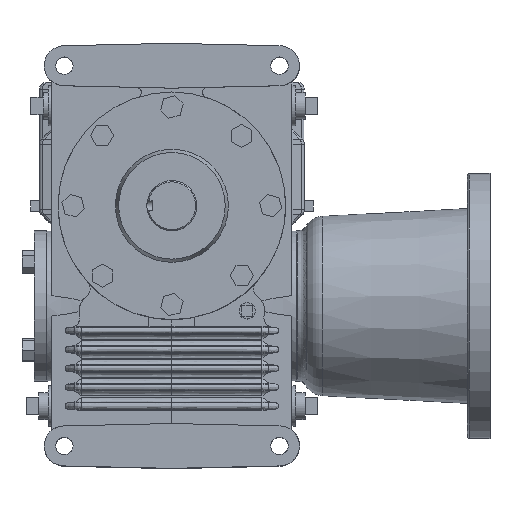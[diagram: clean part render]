
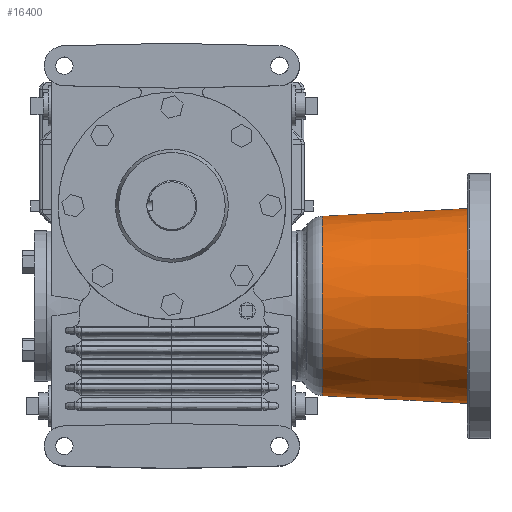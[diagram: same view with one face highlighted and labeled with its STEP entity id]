
A CAD part, top view. The second image highlights one B-rep face of the part: STEP entity #16400.
In plain terms, the highlighted conical face has half-angle 3 degrees and reference radius 61.913 mm.
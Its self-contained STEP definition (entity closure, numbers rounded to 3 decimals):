
#30=CONICAL_SURFACE('',#18641,61.912,0.052);
#1140=B_SPLINE_CURVE_WITH_KNOTS('',3,(#36898,#36899,#36900,#36901),
 .UNSPECIFIED.,.F.,.F.,(4,4),(0.083,0.164),
 .UNSPECIFIED.);
#1141=B_SPLINE_CURVE_WITH_KNOTS('',3,(#36903,#36904,#36905,#36906,#36907,
#36908,#36909,#36910,#36911,#36912),.UNSPECIFIED.,.F.,.F.,(4,1,1,1,1,1,
1,4),(0.,0.002,0.005,0.007,
0.01,0.012,0.015,0.02),
 .UNSPECIFIED.);
#1142=B_SPLINE_CURVE_WITH_KNOTS('',3,(#36914,#36915,#36916,#36917),
 .UNSPECIFIED.,.F.,.F.,(4,4),(0.083,0.164),
 .UNSPECIFIED.);
#8038=ORIENTED_EDGE('',*,*,#10562,.F.);
#8039=ORIENTED_EDGE('',*,*,#10563,.T.);
#8040=ORIENTED_EDGE('',*,*,#10564,.T.);
#8041=ORIENTED_EDGE('',*,*,#10565,.T.);
#8042=ORIENTED_EDGE('',*,*,#10523,.T.);
#10523=EDGE_CURVE('',#12023,#12023,#12576,.T.);
#10562=EDGE_CURVE('',#12057,#12058,#12600,.T.);
#10563=EDGE_CURVE('',#12057,#12059,#1140,.T.);
#10564=EDGE_CURVE('',#12059,#12060,#1141,.T.);
#10565=EDGE_CURVE('',#12060,#12058,#1142,.T.);
#12023=VERTEX_POINT('',#36770);
#12057=VERTEX_POINT('',#36896);
#12058=VERTEX_POINT('',#36897);
#12059=VERTEX_POINT('',#36902);
#12060=VERTEX_POINT('',#36913);
#12576=CIRCLE('',#18598,61.912);
#12600=CIRCLE('',#18642,57.082);
#13690=EDGE_LOOP('',(#8038,#8039,#8040,#8041));
#13691=EDGE_LOOP('',(#8042));
#14880=FACE_BOUND('',#13690,.T.);
#14881=FACE_BOUND('',#13691,.T.);
#16400=ADVANCED_FACE('',(#14880,#14881),#30,.T.);
#18598=AXIS2_PLACEMENT_3D('',#36769,#21952,#21953);
#18641=AXIS2_PLACEMENT_3D('',#36894,#22044,#22045);
#18642=AXIS2_PLACEMENT_3D('',#36895,#22046,#22047);
#21952=DIRECTION('',(-1.,0.,0.));
#21953=DIRECTION('',(0.,0.,1.));
#22044=DIRECTION('',(1.,0.,0.));
#22045=DIRECTION('',(0.,0.,-1.));
#22046=DIRECTION('',(-1.,0.,0.));
#22047=DIRECTION('',(0.,0.,1.));
#36769=CARTESIAN_POINT('',(108.226,0.,0.));
#36770=CARTESIAN_POINT('',(108.226,0.,61.912));
#36894=CARTESIAN_POINT('',(108.226,0.,0.));
#36895=CARTESIAN_POINT('',(16.058,0.,0.));
#36896=CARTESIAN_POINT('',(16.058,-6.35,-56.728));
#36897=CARTESIAN_POINT('',(16.058,6.35,-56.728));
#36898=CARTESIAN_POINT('',(16.058,-6.35,-56.728));
#36899=CARTESIAN_POINT('',(43.161,-6.35,-58.157));
#36900=CARTESIAN_POINT('',(70.264,-6.35,-59.586));
#36901=CARTESIAN_POINT('',(97.368,-6.35,-61.014));
#36902=CARTESIAN_POINT('',(97.368,-6.35,-61.014));
#36903=CARTESIAN_POINT('',(97.368,-6.35,-61.014));
#36904=CARTESIAN_POINT('',(98.208,-6.35,-61.058));
#36905=CARTESIAN_POINT('',(99.86,-6.018,-61.181));
#36906=CARTESIAN_POINT('',(101.972,-4.609,-61.421));
#36907=CARTESIAN_POINT('',(103.383,-2.501,-61.623));
#36908=CARTESIAN_POINT('',(103.884,-0.005,-61.703));
#36909=CARTESIAN_POINT('',(103.388,2.492,-61.624));
#36910=CARTESIAN_POINT('',(101.502,5.316,-61.352));
#36911=CARTESIAN_POINT('',(99.047,6.35,-61.102));
#36912=CARTESIAN_POINT('',(97.368,6.35,-61.014));
#36913=CARTESIAN_POINT('',(97.368,6.35,-61.014));
#36914=CARTESIAN_POINT('',(97.368,6.35,-61.014));
#36915=CARTESIAN_POINT('',(70.264,6.35,-59.586));
#36916=CARTESIAN_POINT('',(43.161,6.35,-58.157));
#36917=CARTESIAN_POINT('',(16.058,6.35,-56.728));
